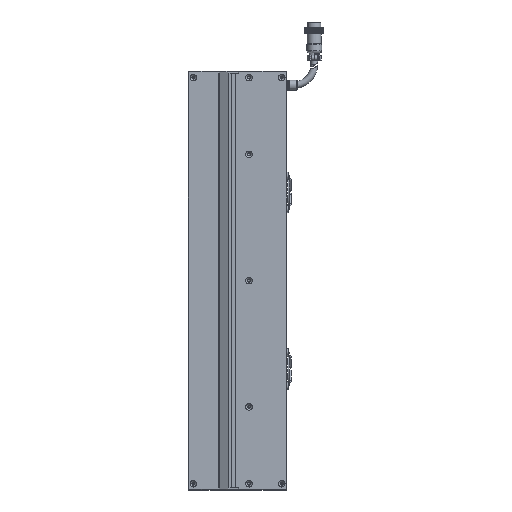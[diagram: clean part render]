
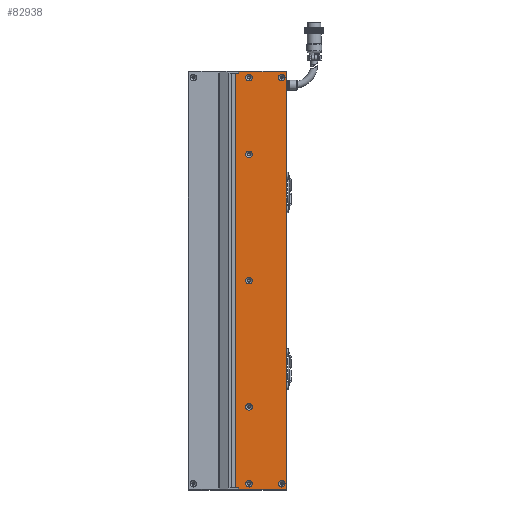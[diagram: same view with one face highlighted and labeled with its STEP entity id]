
A CAD part, left-side view. The second image highlights one B-rep face of the part: STEP entity #82938.
In plain terms, the highlighted planar face has unit normal (-1, 0, 0).
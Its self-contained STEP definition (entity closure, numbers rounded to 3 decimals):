
#817 = CARTESIAN_POINT ( 'NONE',  ( -24.998, -67.5, -189.85 ) ) ;
#1570 = EDGE_CURVE ( 'NONE', #78761, #78761, #88783, .T. ) ;
#1794 = AXIS2_PLACEMENT_3D ( 'NONE', #65303, #17460, #85267 ) ;
#2465 = CARTESIAN_POINT ( 'NONE',  ( -24.998, -36.5, 120. ) ) ;
#3690 = CARTESIAN_POINT ( 'NONE',  ( -24.998, -36.5, 193. ) ) ;
#5027 = CIRCLE ( 'NONE', #1794, 3.15 ) ;
#6847 = CARTESIAN_POINT ( 'NONE',  ( -24.998, -36.5, 3.15 ) ) ;
#11398 = DIRECTION ( 'NONE',  ( -1., 0., 0. ) ) ;
#13615 = EDGE_CURVE ( 'NONE', #42385, #42385, #119568, .T. ) ;
#13631 = FACE_BOUND ( 'NONE', #113833, .T. ) ;
#14345 = ORIENTED_EDGE ( 'NONE', *, *, #1570, .F. ) ;
#15571 = DIRECTION ( 'NONE',  ( 1., 0., 0. ) ) ;
#16248 = AXIS2_PLACEMENT_3D ( 'NONE', #74982, #84714, #48289 ) ;
#17460 = DIRECTION ( 'NONE',  ( -1., 0., 0. ) ) ;
#17715 = LINE ( 'NONE', #95104, #117837 ) ;
#18007 = CARTESIAN_POINT ( 'NONE',  ( -24.998, -67.5, -193. ) ) ;
#19461 = LINE ( 'NONE', #33037, #54263 ) ;
#20537 = DIRECTION ( 'NONE',  ( 0., 0., 1. ) ) ;
#21030 = EDGE_CURVE ( 'NONE', #27172, #27172, #5027, .T. ) ;
#22713 = FACE_OUTER_BOUND ( 'NONE', #43205, .T. ) ;
#22731 = ORIENTED_EDGE ( 'NONE', *, *, #27032, .T. ) ;
#23731 = DIRECTION ( 'NONE',  ( 0., -1., 0. ) ) ;
#23760 = VECTOR ( 'NONE', #67504, 1000. ) ;
#24910 = ORIENTED_EDGE ( 'NONE', *, *, #120841, .F. ) ;
#25731 = FACE_BOUND ( 'NONE', #82087, .T. ) ;
#27032 = EDGE_CURVE ( 'NONE', #74077, #123117, #57585, .T. ) ;
#27172 = VERTEX_POINT ( 'NONE', #94065 ) ;
#28086 = VECTOR ( 'NONE', #32665, 1000. ) ;
#28269 = DIRECTION ( 'NONE',  ( -1., 0., 0. ) ) ;
#28401 = VERTEX_POINT ( 'NONE', #29618 ) ;
#29618 = CARTESIAN_POINT ( 'NONE',  ( -24.998, -36.5, 123.15 ) ) ;
#31842 = VECTOR ( 'NONE', #87815, 1000. ) ;
#32665 = DIRECTION ( 'NONE',  ( 0., 0., -1. ) ) ;
#33037 = CARTESIAN_POINT ( 'NONE',  ( -24.998, -72.5, 197. ) ) ;
#33514 = EDGE_CURVE ( 'NONE', #123117, #76132, #53199, .T. ) ;
#33846 = EDGE_CURVE ( 'NONE', #81183, #81183, #86688, .T. ) ;
#34179 = PLANE ( 'NONE',  #80895 ) ;
#35842 = ORIENTED_EDGE ( 'NONE', *, *, #61740, .F. ) ;
#37417 = ORIENTED_EDGE ( 'NONE', *, *, #21030, .F. ) ;
#38556 = EDGE_CURVE ( 'NONE', #100439, #74077, #94346, .T. ) ;
#39399 = VERTEX_POINT ( 'NONE', #117704 ) ;
#41807 = VERTEX_POINT ( 'NONE', #71199 ) ;
#42385 = VERTEX_POINT ( 'NONE', #6847 ) ;
#43205 = EDGE_LOOP ( 'NONE', ( #51592, #122175, #49711, #22731, #43404, #108000, #50181, #24910 ) ) ;
#43404 = ORIENTED_EDGE ( 'NONE', *, *, #33514, .T. ) ;
#46131 = CARTESIAN_POINT ( 'NONE',  ( -24.998, -36.5, -116.85 ) ) ;
#46389 = CARTESIAN_POINT ( 'NONE',  ( -24.998, -36.5, 0. ) ) ;
#48289 = DIRECTION ( 'NONE',  ( 0., 0., 1. ) ) ;
#49711 = ORIENTED_EDGE ( 'NONE', *, *, #38556, .T. ) ;
#50181 = ORIENTED_EDGE ( 'NONE', *, *, #62705, .F. ) ;
#50251 = DIRECTION ( 'NONE',  ( 0., 0., 1. ) ) ;
#50533 = DIRECTION ( 'NONE',  ( 0., -1., 0. ) ) ;
#50705 = CARTESIAN_POINT ( 'NONE',  ( -24.998, -72., -198.5 ) ) ;
#51592 = ORIENTED_EDGE ( 'NONE', *, *, #97827, .T. ) ;
#51717 = VECTOR ( 'NONE', #67446, 1000. ) ;
#51726 = VECTOR ( 'NONE', #50533, 1000. ) ;
#52687 = VERTEX_POINT ( 'NONE', #817 ) ;
#52810 = CARTESIAN_POINT ( 'NONE',  ( -24.998, -36.5, 196.15 ) ) ;
#53199 = LINE ( 'NONE', #116251, #51717 ) ;
#54263 = VECTOR ( 'NONE', #23731, 1000. ) ;
#55588 = VERTEX_POINT ( 'NONE', #52810 ) ;
#55813 = ORIENTED_EDGE ( 'NONE', *, *, #65196, .F. ) ;
#56898 = DIRECTION ( 'NONE',  ( 0., 0., -1. ) ) ;
#57585 = LINE ( 'NONE', #117070, #31842 ) ;
#59038 = FACE_BOUND ( 'NONE', #65122, .T. ) ;
#59740 = VERTEX_POINT ( 'NONE', #124387 ) ;
#61740 = EDGE_CURVE ( 'NONE', #28401, #28401, #124142, .T. ) ;
#61994 = CARTESIAN_POINT ( 'NONE',  ( -24.998, -23.25, -197. ) ) ;
#62705 = EDGE_CURVE ( 'NONE', #59740, #39399, #19461, .T. ) ;
#62708 = EDGE_LOOP ( 'NONE', ( #37417 ) ) ;
#63394 = DIRECTION ( 'NONE',  ( 0., 0., -1. ) ) ;
#64674 = EDGE_CURVE ( 'NONE', #41807, #100439, #17715, .T. ) ;
#65122 = EDGE_LOOP ( 'NONE', ( #55813 ) ) ;
#65139 = EDGE_LOOP ( 'NONE', ( #91869 ) ) ;
#65196 = EDGE_CURVE ( 'NONE', #52687, #52687, #79852, .T. ) ;
#65270 = AXIS2_PLACEMENT_3D ( 'NONE', #94824, #28269, #104549 ) ;
#65303 = CARTESIAN_POINT ( 'NONE',  ( -24.998, -36.5, -193. ) ) ;
#66571 = ORIENTED_EDGE ( 'NONE', *, *, #13615, .F. ) ;
#67446 = DIRECTION ( 'NONE',  ( 0., 1., 0. ) ) ;
#67504 = DIRECTION ( 'NONE',  ( 0., -1., 0. ) ) ;
#68221 = EDGE_CURVE ( 'NONE', #76132, #39399, #122100, .T. ) ;
#68382 = CARTESIAN_POINT ( 'NONE',  ( -24.998, -23.25, -197. ) ) ;
#68386 = DIRECTION ( 'NONE',  ( -1., 0., 0. ) ) ;
#69644 = CARTESIAN_POINT ( 'NONE',  ( -24.998, -72.5, -198.5 ) ) ;
#70565 = EDGE_LOOP ( 'NONE', ( #35842 ) ) ;
#71012 = AXIS2_PLACEMENT_3D ( 'NONE', #3690, #71417, #91341 ) ;
#71199 = CARTESIAN_POINT ( 'NONE',  ( -24.998, -26.5, -197. ) ) ;
#71417 = DIRECTION ( 'NONE',  ( -1., 0., 0. ) ) ;
#74077 = VERTEX_POINT ( 'NONE', #50705 ) ;
#74243 = FACE_BOUND ( 'NONE', #65139, .T. ) ;
#74982 = CARTESIAN_POINT ( 'NONE',  ( -24.998, -67.5, 193. ) ) ;
#75212 = EDGE_LOOP ( 'NONE', ( #116647 ) ) ;
#76132 = VERTEX_POINT ( 'NONE', #118824 ) ;
#76262 = CARTESIAN_POINT ( 'NONE',  ( -24.998, -67.5, 196.15 ) ) ;
#76891 = LINE ( 'NONE', #125625, #23760 ) ;
#77309 = FACE_BOUND ( 'NONE', #75212, .T. ) ;
#77945 = VERTEX_POINT ( 'NONE', #61994 ) ;
#78181 = AXIS2_PLACEMENT_3D ( 'NONE', #46389, #113817, #105715 ) ;
#78761 = VERTEX_POINT ( 'NONE', #46131 ) ;
#79803 = DIRECTION ( 'NONE',  ( 0., 0., 1. ) ) ;
#79852 = CIRCLE ( 'NONE', #83101, 3.15 ) ;
#80895 = AXIS2_PLACEMENT_3D ( 'NONE', #121522, #15571, #63394 ) ;
#80956 = CARTESIAN_POINT ( 'NONE',  ( -24.998, -26.5, 190. ) ) ;
#81183 = VERTEX_POINT ( 'NONE', #76262 ) ;
#82087 = EDGE_LOOP ( 'NONE', ( #14345 ) ) ;
#82938 = ADVANCED_FACE ( 'NONE', ( #59038, #103060, #77309, #25731, #13631, #113668, #74243, #22713 ), #34179, .F. ) ;
#83101 = AXIS2_PLACEMENT_3D ( 'NONE', #18007, #68386, #79803 ) ;
#84714 = DIRECTION ( 'NONE',  ( -1., 0., 0. ) ) ;
#85267 = DIRECTION ( 'NONE',  ( 0., 0., 1. ) ) ;
#86262 = CARTESIAN_POINT ( 'NONE',  ( -24.998, -72., 198.5 ) ) ;
#86688 = CIRCLE ( 'NONE', #16248, 3.15 ) ;
#87815 = DIRECTION ( 'NONE',  ( 0., 0., 1. ) ) ;
#88783 = CIRCLE ( 'NONE', #65270, 3.15 ) ;
#91108 = AXIS2_PLACEMENT_3D ( 'NONE', #2465, #11398, #50251 ) ;
#91341 = DIRECTION ( 'NONE',  ( 0., 0., 1. ) ) ;
#91869 = ORIENTED_EDGE ( 'NONE', *, *, #117230, .F. ) ;
#94065 = CARTESIAN_POINT ( 'NONE',  ( -24.998, -36.5, -189.85 ) ) ;
#94346 = LINE ( 'NONE', #69644, #51726 ) ;
#94824 = CARTESIAN_POINT ( 'NONE',  ( -24.998, -36.5, -120. ) ) ;
#95104 = CARTESIAN_POINT ( 'NONE',  ( -24.998, -26.5, -190. ) ) ;
#97827 = EDGE_CURVE ( 'NONE', #77945, #41807, #76891, .T. ) ;
#100439 = VERTEX_POINT ( 'NONE', #109720 ) ;
#103060 = FACE_BOUND ( 'NONE', #62708, .T. ) ;
#104549 = DIRECTION ( 'NONE',  ( 0., 0., 1. ) ) ;
#105715 = DIRECTION ( 'NONE',  ( 0., 0., 1. ) ) ;
#108000 = ORIENTED_EDGE ( 'NONE', *, *, #68221, .T. ) ;
#109720 = CARTESIAN_POINT ( 'NONE',  ( -24.998, -26.5, -198.5 ) ) ;
#111448 = CIRCLE ( 'NONE', #71012, 3.15 ) ;
#113668 = FACE_BOUND ( 'NONE', #70565, .T. ) ;
#113817 = DIRECTION ( 'NONE',  ( -1., 0., 0. ) ) ;
#113833 = EDGE_LOOP ( 'NONE', ( #66571 ) ) ;
#116251 = CARTESIAN_POINT ( 'NONE',  ( -24.998, -72.5, 198.5 ) ) ;
#116647 = ORIENTED_EDGE ( 'NONE', *, *, #33846, .F. ) ;
#117070 = CARTESIAN_POINT ( 'NONE',  ( -24.998, -72., 197. ) ) ;
#117230 = EDGE_CURVE ( 'NONE', #55588, #55588, #111448, .T. ) ;
#117369 = LINE ( 'NONE', #68382, #125016 ) ;
#117704 = CARTESIAN_POINT ( 'NONE',  ( -24.998, -26.5, 197. ) ) ;
#117837 = VECTOR ( 'NONE', #56898, 1000. ) ;
#118824 = CARTESIAN_POINT ( 'NONE',  ( -24.998, -26.5, 198.5 ) ) ;
#119568 = CIRCLE ( 'NONE', #78181, 3.15 ) ;
#120841 = EDGE_CURVE ( 'NONE', #77945, #59740, #117369, .T. ) ;
#121522 = CARTESIAN_POINT ( 'NONE',  ( -24.998, -72.5, 197. ) ) ;
#122100 = LINE ( 'NONE', #80956, #28086 ) ;
#122175 = ORIENTED_EDGE ( 'NONE', *, *, #64674, .T. ) ;
#123117 = VERTEX_POINT ( 'NONE', #86262 ) ;
#124142 = CIRCLE ( 'NONE', #91108, 3.15 ) ;
#124387 = CARTESIAN_POINT ( 'NONE',  ( -24.998, -23.25, 197. ) ) ;
#125016 = VECTOR ( 'NONE', #20537, 1000. ) ;
#125625 = CARTESIAN_POINT ( 'NONE',  ( -24.998, -72.5, -197. ) ) ;
